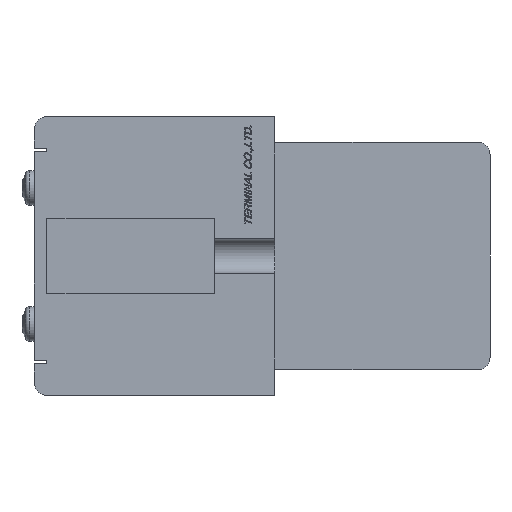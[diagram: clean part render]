
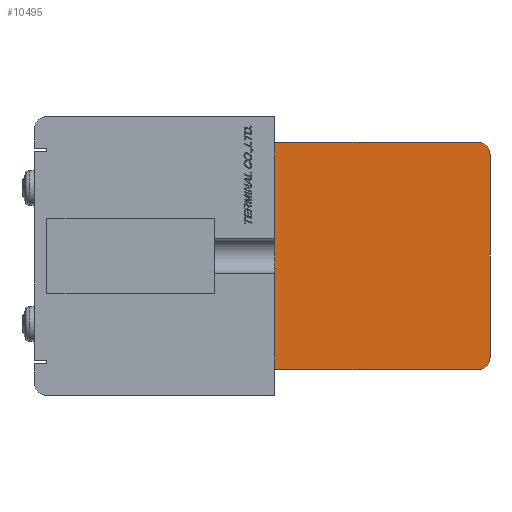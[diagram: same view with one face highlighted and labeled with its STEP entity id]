
A CAD part, left-side view. The second image highlights one B-rep face of the part: STEP entity #10495.
In plain terms, the highlighted planar face has unit normal (-1, 0, 0).
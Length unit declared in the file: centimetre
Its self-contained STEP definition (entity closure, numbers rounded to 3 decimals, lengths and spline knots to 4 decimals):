
#1461=VECTOR('',#13246,1.);
#1474=VECTOR('',#13274,1.);
#1477=VECTOR('',#13282,1.);
#1480=VECTOR('',#13290,1.);
#2523=LINE('',#16906,#1461);
#2536=LINE('',#16936,#1474);
#2539=LINE('',#16944,#1477);
#2542=LINE('',#16952,#1480);
#3573=VERTEX_POINT('',#16903);
#3574=VERTEX_POINT('',#16905);
#3581=VERTEX_POINT('',#16937);
#3582=VERTEX_POINT('',#16941);
#3583=VERTEX_POINT('',#16945);
#3584=VERTEX_POINT('',#16949);
#3805=CIRCLE('',#11202,0.2);
#3806=CIRCLE('',#11205,0.2);
#5352=EDGE_CURVE('',#3574,#3573,#2523,.T.);
#5367=EDGE_CURVE('',#3573,#3581,#2536,.T.);
#5369=EDGE_CURVE('',#3581,#3582,#3805,.T.);
#5371=EDGE_CURVE('',#3582,#3583,#2539,.T.);
#5373=EDGE_CURVE('',#3583,#3584,#3806,.T.);
#5375=EDGE_CURVE('',#3584,#3574,#2542,.T.);
#8516=ORIENTED_EDGE('',*,*,#5352,.F.);
#8517=ORIENTED_EDGE('',*,*,#5375,.F.);
#8518=ORIENTED_EDGE('',*,*,#5373,.F.);
#8519=ORIENTED_EDGE('',*,*,#5371,.F.);
#8520=ORIENTED_EDGE('',*,*,#5369,.F.);
#8521=ORIENTED_EDGE('',*,*,#5367,.F.);
#9216=EDGE_LOOP('',(#8516,#8517,#8518,#8519,#8520,#8521));
#9893=FACE_BOUND('',#9216,.T.);
#10495=ADVANCED_FACE('',(#9893),#17373,.F.);
#11202=AXIS2_PLACEMENT_3D('',#16940,#13278,#13279);
#11205=AXIS2_PLACEMENT_3D('',#16948,#13286,#13287);
#11207=AXIS2_PLACEMENT_3D('',#16953,#13291,$);
#13246=DIRECTION('',(0.,0.,1.));
#13274=DIRECTION('',(0.,-1.,0.));
#13278=DIRECTION('',(1.,0.,0.));
#13279=DIRECTION('',(0.,0.,-0.2));
#13282=DIRECTION('',(0.,0.,-1.));
#13286=DIRECTION('',(1.,0.,0.));
#13287=DIRECTION('',(0.,0.,-0.2));
#13290=DIRECTION('',(0.,1.,0.));
#13291=DIRECTION('',(1.,0.,0.));
#16903=CARTESIAN_POINT('',(-0.4,0.,1.8));
#16905=CARTESIAN_POINT('',(-0.4,0.,-1.8));
#16906=CARTESIAN_POINT('',(-0.4,0.,1.8));
#16936=CARTESIAN_POINT('',(-0.4,-3.2,1.8));
#16937=CARTESIAN_POINT('',(-0.4,-3.2,1.8));
#16940=CARTESIAN_POINT('',(-0.4,-3.2,1.6));
#16941=CARTESIAN_POINT('',(-0.4,-3.4,1.6));
#16944=CARTESIAN_POINT('',(-0.4,-3.4,-1.6));
#16945=CARTESIAN_POINT('',(-0.4,-3.4,-1.6));
#16948=CARTESIAN_POINT('',(-0.4,-3.2,-1.6));
#16949=CARTESIAN_POINT('',(-0.4,-3.2,-1.8));
#16952=CARTESIAN_POINT('',(-0.4,0.,-1.8));
#16953=CARTESIAN_POINT('',(-0.4,-1.6784,0.));
#17373=PLANE('',#11207);
